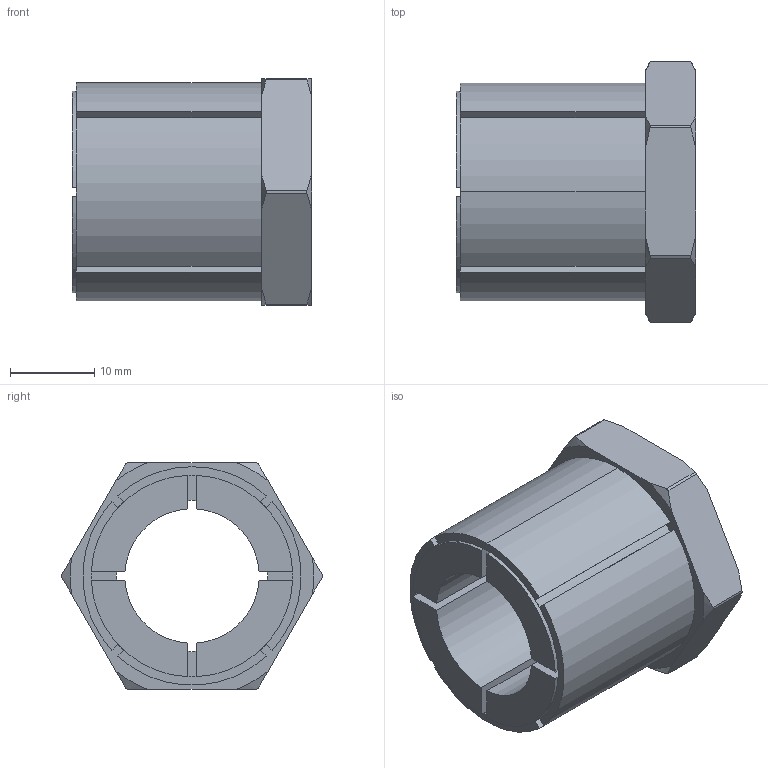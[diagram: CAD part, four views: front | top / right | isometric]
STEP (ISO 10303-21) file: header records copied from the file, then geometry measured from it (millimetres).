
FILE_DESCRIPTION (( 'STEP AP203' ), '1' );
FILE_NAME ('KBS 58 - 16 x 26.STEP', '2015-07-05T19:51:00', ( '' ), ( '' ), 'SwSTEP 2.0', 'SolidWorks 2010', '' );
FILE_SCHEMA (( 'CONFIG_CONTROL_DESIGN' ));
Length unit declared in the file: millimetre
Products named in the file (1): KBS 58 - 16 x 26
Bounding box: 28.5 x 31 x 27 mm (x, y, z)
Volume: 9395.1 mm3; surface area: 5739.8 mm2
Topology: 1 solids, 1 shells, 79 faces, 220 edges, 144 vertices
Faces by surface type: plane 37, cylinder 26, cone 16
Entity records: 2687 total; most frequent: CARTESIAN_POINT 564, ORIENTED_EDGE 440, DIRECTION 428, EDGE_CURVE 220, AXIS2_PLACEMENT_3D 160, VERTEX_POINT 144, LINE 108, VECTOR 108
